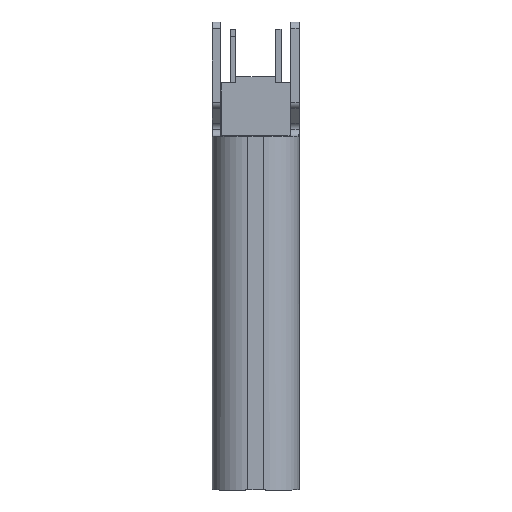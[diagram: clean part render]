
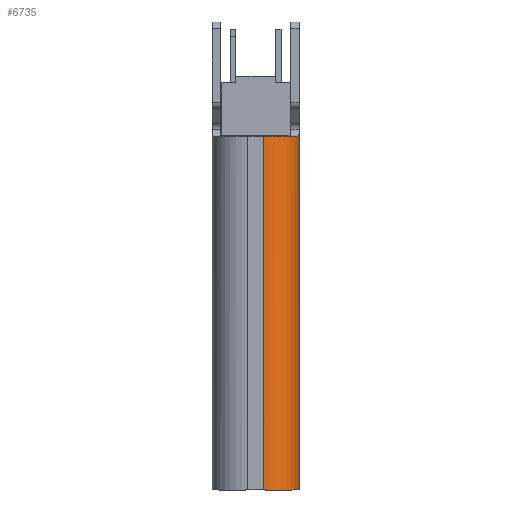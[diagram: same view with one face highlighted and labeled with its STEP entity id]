
A CAD part, front view. The second image highlights one B-rep face of the part: STEP entity #6735.
In plain terms, the highlighted cylindrical face has radius 1.3 mm (diameter 2.6 mm), a partial arc.
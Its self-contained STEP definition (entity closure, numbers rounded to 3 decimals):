
#31 = CARTESIAN_POINT ( 'NONE',  ( 1.463, -4.64, 27.43 ) ) ;
#503 = ORIENTED_EDGE ( 'NONE', *, *, #14324, .T. ) ;
#800 = AXIS2_PLACEMENT_3D ( 'NONE', #9535, #22242, #16811 ) ;
#956 = EDGE_CURVE ( 'NONE', #11180, #20370, #23378, .T. ) ;
#1718 = CARTESIAN_POINT ( 'NONE',  ( 1.469, -4.575, 27.457 ) ) ;
#1983 = VECTOR ( 'NONE', #10079, 1000. ) ;
#2865 = CARTESIAN_POINT ( 'NONE',  ( 1.474, -4.455, 27.68 ) ) ;
#3154 = DIRECTION ( 'NONE',  ( 0., 0., -1. ) ) ;
#3270 = DIRECTION ( 'NONE',  ( 0., 1., 0. ) ) ;
#3458 = DIRECTION ( 'NONE',  ( 0., 0., -1. ) ) ;
#4381 = VERTEX_POINT ( 'NONE', #15439 ) ;
#4539 = ORIENTED_EDGE ( 'NONE', *, *, #12319, .F. ) ;
#5261 = CARTESIAN_POINT ( 'NONE',  ( 1.45, -4.705, 27.43 ) ) ;
#5673 = VECTOR ( 'NONE', #3458, 1000. ) ;
#6706 = CARTESIAN_POINT ( 'NONE',  ( 0.174, -4.455, 27.43 ) ) ;
#6735 = ADVANCED_FACE ( 'NONE', ( #18072 ), #14318, .T. ) ;
#6934 = VERTEX_POINT ( 'NONE', #15272 ) ;
#7048 = CARTESIAN_POINT ( 'NONE',  ( 1.474, -4.455, 27.613 ) ) ;
#7086 = CARTESIAN_POINT ( 'NONE',  ( 0.174, -5.755, 26.98 ) ) ;
#7328 = EDGE_CURVE ( 'NONE', #20370, #16931, #9206, .T. ) ;
#7769 = CARTESIAN_POINT ( 'NONE',  ( 1.474, -4.455, 17.183 ) ) ;
#8785 = AXIS2_PLACEMENT_3D ( 'NONE', #12249, #3154, #3270 ) ;
#9009 = CARTESIAN_POINT ( 'NONE',  ( 1.475, -4.483, 27.549 ) ) ;
#9206 = CIRCLE ( 'NONE', #16941, 1.3 ) ;
#9535 = CARTESIAN_POINT ( 'NONE',  ( 0.174, -4.455, 14.58 ) ) ;
#9558 = DIRECTION ( 'NONE',  ( 0., 1., 0. ) ) ;
#9781 = ORIENTED_EDGE ( 'NONE', *, *, #956, .T. ) ;
#9847 = LINE ( 'NONE', #7086, #5673 ) ;
#10079 = DIRECTION ( 'NONE',  ( 0., 0., 1. ) ) ;
#10476 = CIRCLE ( 'NONE', #800, 1.3 ) ;
#10583 = CARTESIAN_POINT ( 'NONE',  ( 1.45, -4.705, 27.43 ) ) ;
#11180 = VERTEX_POINT ( 'NONE', #2865 ) ;
#11302 = LINE ( 'NONE', #7769, #1983 ) ;
#12249 = CARTESIAN_POINT ( 'NONE',  ( 0.174, -4.455, 26.98 ) ) ;
#12319 = EDGE_CURVE ( 'NONE', #4381, #6934, #10476, .T. ) ;
#14318 = CYLINDRICAL_SURFACE ( 'NONE', #8785, 1.3 ) ;
#14324 = EDGE_CURVE ( 'NONE', #4381, #11180, #11302, .T. ) ;
#14759 = ORIENTED_EDGE ( 'NONE', *, *, #18350, .T. ) ;
#15272 = CARTESIAN_POINT ( 'NONE',  ( 0.174, -5.755, 14.58 ) ) ;
#15439 = CARTESIAN_POINT ( 'NONE',  ( 1.474, -4.455, 14.58 ) ) ;
#16001 = ORIENTED_EDGE ( 'NONE', *, *, #7328, .T. ) ;
#16811 = DIRECTION ( 'NONE',  ( 0., 1., 0. ) ) ;
#16931 = VERTEX_POINT ( 'NONE', #18976 ) ;
#16941 = AXIS2_PLACEMENT_3D ( 'NONE', #6706, #18884, #9558 ) ;
#17561 = EDGE_LOOP ( 'NONE', ( #9781, #16001, #14759, #4539, #503 ) ) ;
#18072 = FACE_OUTER_BOUND ( 'NONE', #17561, .T. ) ;
#18350 = EDGE_CURVE ( 'NONE', #16931, #6934, #9847, .T. ) ;
#18448 = CARTESIAN_POINT ( 'NONE',  ( 1.474, -4.455, 27.68 ) ) ;
#18884 = DIRECTION ( 'NONE',  ( 0., 0., -1. ) ) ;
#18976 = CARTESIAN_POINT ( 'NONE',  ( 0.174, -5.755, 27.43 ) ) ;
#20370 = VERTEX_POINT ( 'NONE', #5261 ) ;
#22242 = DIRECTION ( 'NONE',  ( 0., 0., -1. ) ) ;
#23378 = B_SPLINE_CURVE_WITH_KNOTS ( 'NONE', 3,
 ( #18448, #7048, #9009, #1718, #31, #10583 ),
 .UNSPECIFIED., .F., .F.,
 ( 4, 2, 4 ),
 ( 0., 0.5, 1. ),
 .UNSPECIFIED. ) ;
